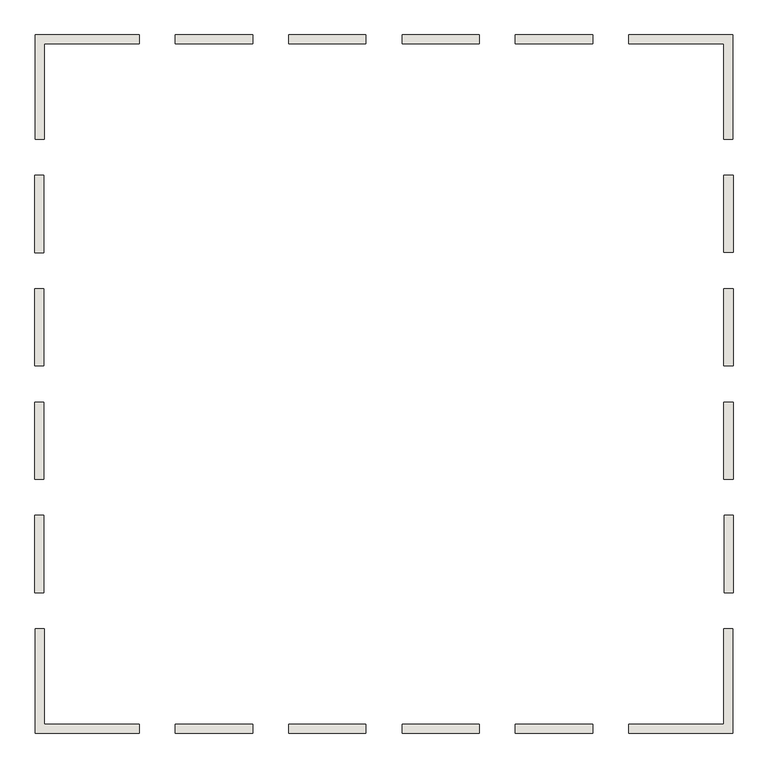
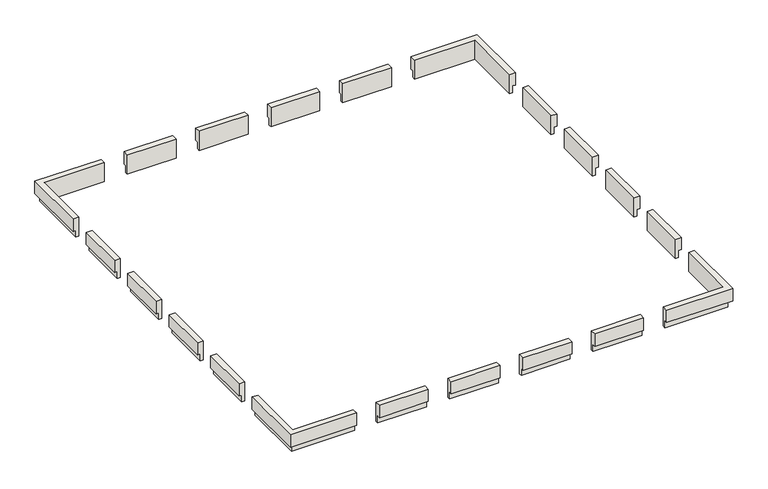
"""IFC4 building model written with IfcOpenShell, lengths in millimetres: wall geometry, mukarnas_holder : mukarnas_holder."""

from ifc_helpers import new_model, si_unit, frame, origin, place, context, project, spatial, polyline, outline, extrude, faceted_brep, source, transform, mapped, element, save


def wall_94556f3f(model_context):
    return source(origin(), model_context, "Body", "SolidModel", [
        extrude(outline(polyline([(-1004.430099, 11500.0), (-1004.430099, 11050.0), (-1104.430099, 11050.0), (-1104.430099, 10800.0), (-1204.430099, 10800.0), (-1204.430099, 11500.0), (-1004.430099, 11500.0)])), frame((-523.5775323, 0.0, 0.0), z_axis=(1.0, 0.0, 0.0), x_axis=(0.0, 1.0, 0.0)), (0.0, 0.0, 1.0), 1700.0),
        extrude(outline(polyline([(-16404.430099, 11500.0), (-16204.430099, 11500.0), (-16204.430099, 10800.0), (-16304.430099, 10800.0), (-16304.430099, 11050.0), (-16404.430099, 11050.0), (-16404.430099, 11500.0)])), frame((-523.5775323, 0.0, 0.0), z_axis=(1.0, 0.0, 0.0), x_axis=(0.0, 1.0, 0.0)), (0.0, 0.0, 1.0), 1700.0),
        faceted_brep([(-8823.5775323, -16404.430099, 11500.0), (-8823.5775323, -16404.430099, 11050.0), (-8823.5775323, -16304.430099, 11050.0), (-8823.5775323, -16304.430099, 10800.0), (-8823.5775323, -16204.430099, 10800.0), (-8823.5775323, -16204.430099, 11500.0), (-11121.3871887, -16404.430099, 11500.0), (-11121.3871887, -16404.430099, 11050.0), (-11121.3871887, -14106.6204427, 11050.0), (-11021.3871887, -14106.6204427, 11050.0), (-11021.3871887, -16304.430099, 11050.0), (-11021.3871887, -16304.430099, 10800.0), (-11021.3871887, -14106.6204427, 10800.0), (-10921.3871887, -14106.6204427, 10800.0), (-10921.3871887, -16204.430099, 10800.0), (-10921.3871887, -16204.430099, 11500.0), (-10921.3871887, -14106.6204427, 11500.0), (-11121.3871887, -14106.6204427, 11500.0)], [[[0, 1, 2, 3, 4, 5]], [[1, 0, 6, 7]], [[2, 1, 7, 8, 9, 10]], [[3, 2, 10, 11]], [[4, 3, 11, 12, 13, 14]], [[5, 4, 14, 15]], [[0, 5, 15, 16, 17, 6]], [[17, 16, 13, 12, 9, 8]], [[7, 6, 17, 8]], [[11, 10, 9, 12]], [[15, 14, 13, 16]]]),
        faceted_brep([(1976.4224677, -16404.430099, 11500.0), (1976.4224677, -16204.430099, 11500.0), (1976.4224677, -16204.430099, 10800.0), (1976.4224677, -16304.430099, 10800.0), (1976.4224677, -16304.430099, 11050.0), (1976.4224677, -16404.430099, 11050.0), (4274.232124, -16404.430099, 11050.0), (4274.232124, -16404.430099, 11500.0), (4174.232124, -16304.430099, 11050.0), (4174.232124, -14106.6204427, 11050.0), (4274.232124, -14106.6204427, 11050.0), (4174.232124, -16304.430099, 10800.0), (4074.232124, -16204.430099, 10800.0), (4074.232124, -14106.6204427, 10800.0), (4174.232124, -14106.6204427, 10800.0), (4074.232124, -16204.430099, 11500.0), (4274.232124, -14106.6204427, 11500.0), (4074.232124, -14106.6204427, 11500.0)], [[[0, 1, 2, 3, 4, 5]], [[0, 5, 6, 7]], [[5, 4, 8, 9, 10, 6]], [[4, 3, 11, 8]], [[3, 2, 12, 13, 14, 11]], [[2, 1, 15, 12]], [[1, 0, 7, 16, 17, 15]], [[16, 10, 9, 14, 13, 17]], [[7, 6, 10, 16]], [[8, 11, 14, 9]], [[12, 15, 17, 13]]]),
        faceted_brep([(-8823.5775323, -1004.430099, 11500.0), (-8823.5775323, -1204.430099, 11500.0), (-8823.5775323, -1204.430099, 10800.0), (-8823.5775323, -1104.430099, 10800.0), (-8823.5775323, -1104.430099, 11050.0), (-8823.5775323, -1004.430099, 11050.0), (-11121.3871887, -1004.430099, 11050.0), (-11121.3871887, -1004.430099, 11500.0), (-11021.3871887, -1104.430099, 11050.0), (-11021.3871887, -3302.2397554, 11050.0), (-11121.3871887, -3302.2397554, 11050.0), (-11021.3871887, -1104.430099, 10800.0), (-10921.3871887, -1204.430099, 10800.0), (-10921.3871887, -3302.2397554, 10800.0), (-11021.3871887, -3302.2397554, 10800.0), (-10921.3871887, -1204.430099, 11500.0), (-11121.3871887, -3302.2397554, 11500.0), (-10921.3871887, -3302.2397554, 11500.0)], [[[0, 1, 2, 3, 4, 5]], [[0, 5, 6, 7]], [[5, 4, 8, 9, 10, 6]], [[4, 3, 11, 8]], [[3, 2, 12, 13, 14, 11]], [[2, 1, 15, 12]], [[1, 0, 7, 16, 17, 15]], [[16, 10, 9, 14, 13, 17]], [[7, 6, 10, 16]], [[8, 11, 14, 9]], [[12, 15, 17, 13]]]),
        faceted_brep([(1976.4224677, -1004.430099, 11500.0), (1976.4224677, -1004.430099, 11050.0), (1976.4224677, -1104.430099, 11050.0), (1976.4224677, -1104.430099, 10800.0), (1976.4224677, -1204.430099, 10800.0), (1976.4224677, -1204.430099, 11500.0), (4274.232124, -1004.430099, 11500.0), (4274.232124, -1004.430099, 11050.0), (4274.232124, -3302.2397554, 11050.0), (4174.232124, -3302.2397554, 11050.0), (4174.232124, -1104.430099, 11050.0), (4174.232124, -1104.430099, 10800.0), (4174.232124, -3302.2397554, 10800.0), (4074.232124, -3302.2397554, 10800.0), (4074.232124, -1204.430099, 10800.0), (4074.232124, -1204.430099, 11500.0), (4074.232124, -3302.2397554, 11500.0), (4274.232124, -3302.2397554, 11500.0)], [[[0, 1, 2, 3, 4, 5]], [[1, 0, 6, 7]], [[2, 1, 7, 8, 9, 10]], [[3, 2, 10, 11]], [[4, 3, 11, 12, 13, 14]], [[5, 4, 14, 15]], [[0, 5, 15, 16, 17, 6]], [[17, 16, 13, 12, 9, 8]], [[7, 6, 17, 8]], [[11, 10, 9, 12]], [[15, 14, 13, 16]]]),
        extrude(outline(polyline([(11500.0, 4276.4224677), (11500.0, 4074.232124), (10800.0, 4074.232124), (10800.0, 4176.4224677), (11050.0, 4176.4224677), (11050.0, 4276.4224677), (11500.0, 4276.4224677)])), frame((0.0, -5802.2397554, 0.0), z_axis=(0.0, 1.0, 0.0), x_axis=(0.0, 0.0, 1.0)), (0.0, 0.0, 1.0), 1700.0),
        extrude(outline(polyline([(11500.0, 4276.4224677), (11500.0, 4074.232124), (10800.0, 4074.232124), (10800.0, 4176.4224677), (11050.0, 4176.4224677), (11050.0, 4276.4224677), (11500.0, 4276.4224677)])), frame((0.0, -8302.2397554, 0.0), z_axis=(0.0, 1.0, 0.0), x_axis=(0.0, 0.0, 1.0)), (0.0, 0.0, 1.0), 1700.0),
        extrude(outline(polyline([(11500.0, 4276.4224677), (11500.0, 4074.232124), (10800.0, 4074.232124), (10800.0, 4176.4224677), (11050.0, 4176.4224677), (11050.0, 4276.4224677), (11500.0, 4276.4224677)])), frame((0.0, -10802.2397554, 0.0), z_axis=(0.0, 1.0, 0.0), x_axis=(0.0, 0.0, 1.0)), (0.0, 0.0, 1.0), 1700.0),
        extrude(outline(polyline([(11500.0, 4276.4224677), (11500.0, 4076.4224677), (10800.0, 4076.4224677), (10800.0, 4176.4224677), (11050.0, 4176.4224677), (11050.0, 4276.4224677), (11500.0, 4276.4224677)])), frame((0.0, -13304.430099, 0.0), z_axis=(0.0, 1.0, 0.0), x_axis=(0.0, 0.0, 1.0)), (0.0, 0.0, 1.0), 1702.1903437),
        extrude(outline(polyline([(11500.0, -11123.5775323), (11050.0, -11123.5775323), (11050.0, -11023.5775323), (10800.0, -11023.5775323), (10800.0, -10923.5775323), (11500.0, -10923.5775323), (11500.0, -11123.5775323)])), frame((0.0, -5804.430099, 0.0), z_axis=(0.0, 1.0, 0.0), x_axis=(0.0, 0.0, 1.0)), (0.0, 0.0, 1.0), 1700.0),
        extrude(outline(polyline([(11500.0, -11123.5775323), (11050.0, -11123.5775323), (11050.0, -11023.5775323), (10800.0, -11023.5775323), (10800.0, -10923.5775323), (11500.0, -10923.5775323), (11500.0, -11123.5775323)])), frame((0.0, -8304.430099, 0.0), z_axis=(0.0, 1.0, 0.0), x_axis=(0.0, 0.0, 1.0)), (0.0, 0.0, 1.0), 1700.0),
        extrude(outline(polyline([(11500.0, -11123.5775323), (11050.0, -11123.5775323), (11050.0, -11023.5775323), (10800.0, -11023.5775323), (10800.0, -10923.5775323), (11500.0, -10923.5775323), (11500.0, -11123.5775323)])), frame((0.0, -10804.430099, 0.0), z_axis=(0.0, 1.0, 0.0), x_axis=(0.0, 0.0, 1.0)), (0.0, 0.0, 1.0), 1700.0),
        extrude(outline(polyline([(11500.0, -11123.5775323), (11050.0, -11123.5775323), (11050.0, -11023.5775323), (10800.0, -11023.5775323), (10800.0, -10923.5775323), (11500.0, -10923.5775323), (11500.0, -11123.5775323)])), frame((0.0, -13304.430099, 0.0), z_axis=(0.0, 1.0, 0.0), x_axis=(0.0, 0.0, 1.0)), (0.0, 0.0, 1.0), 1700.0),
        extrude(outline(polyline([(-1004.430099, 11500.0), (-1004.430099, 11050.0), (-1104.430099, 11050.0), (-1104.430099, 10800.0), (-1204.430099, 10800.0), (-1204.430099, 11500.0), (-1004.430099, 11500.0)])), frame((-8023.5775323, 0.0, 0.0), z_axis=(1.0, 0.0, 0.0), x_axis=(0.0, 1.0, 0.0)), (0.0, 0.0, 1.0), 1700.0),
        extrude(outline(polyline([(-1004.430099, 11500.0), (-1004.430099, 11050.0), (-1104.430099, 11050.0), (-1104.430099, 10800.0), (-1204.430099, 10800.0), (-1204.430099, 11500.0), (-1004.430099, 11500.0)])), frame((-5523.5775323, 0.0, 0.0), z_axis=(1.0, 0.0, 0.0), x_axis=(0.0, 1.0, 0.0)), (0.0, 0.0, 1.0), 1700.0),
        extrude(outline(polyline([(-1004.430099, 11500.0), (-1004.430099, 11050.0), (-1104.430099, 11050.0), (-1104.430099, 10800.0), (-1204.430099, 10800.0), (-1204.430099, 11500.0), (-1004.430099, 11500.0)])), frame((-3023.5775323, 0.0, 0.0), z_axis=(1.0, 0.0, 0.0), x_axis=(0.0, 1.0, 0.0)), (0.0, 0.0, 1.0), 1700.0),
        extrude(outline(polyline([(-16404.430099, 11500.0), (-16204.430099, 11500.0), (-16204.430099, 10800.0), (-16304.430099, 10800.0), (-16304.430099, 11050.0), (-16404.430099, 11050.0), (-16404.430099, 11500.0)])), frame((-8023.5775323, 0.0, 0.0), z_axis=(1.0, 0.0, 0.0), x_axis=(0.0, 1.0, 0.0)), (0.0, 0.0, 1.0), 1700.0),
        extrude(outline(polyline([(-16404.430099, 11500.0), (-16204.430099, 11500.0), (-16204.430099, 10800.0), (-16304.430099, 10800.0), (-16304.430099, 11050.0), (-16404.430099, 11050.0), (-16404.430099, 11500.0)])), frame((-5523.5775323, 0.0, 0.0), z_axis=(1.0, 0.0, 0.0), x_axis=(0.0, 1.0, 0.0)), (0.0, 0.0, 1.0), 1700.0),
        extrude(outline(polyline([(-16404.430099, 11500.0), (-16204.430099, 11500.0), (-16204.430099, 10800.0), (-16304.430099, 10800.0), (-16304.430099, 11050.0), (-16404.430099, 11050.0), (-16404.430099, 11500.0)])), frame((-3023.5775323, 0.0, 0.0), z_axis=(1.0, 0.0, 0.0), x_axis=(0.0, 1.0, 0.0)), (0.0, 0.0, 1.0), 1700.0),
    ])


if __name__ == "__main__":
    model = new_model("IFC4")
    model_context = context("Model", 3, world=origin())
    ifc_project = project(units=[si_unit("LENGTHUNIT", "METRE", prefix="MILLI")], contexts=[model_context])
    site = spatial("IfcSite", under=ifc_project)
    building = spatial("IfcBuilding", under=site)
    placement = place(None, origin())
    wall_shape = wall_94556f3f(model_context)
    element("IfcWall", 1, ObjectType="mukarnas_holder : mukarnas_holder", at=placement, inside=building, context=model_context, shape_type="MappedRepresentation", body=[
        mapped(wall_shape, transform((0.0, 0.0, 0.0), x_axis=(1.0, 0.0, 0.0), y_axis=(0.0, 1.0, 0.0), z_axis=(0.0, 0.0, 1.0))),
    ])
    save(model, "model.ifc")
